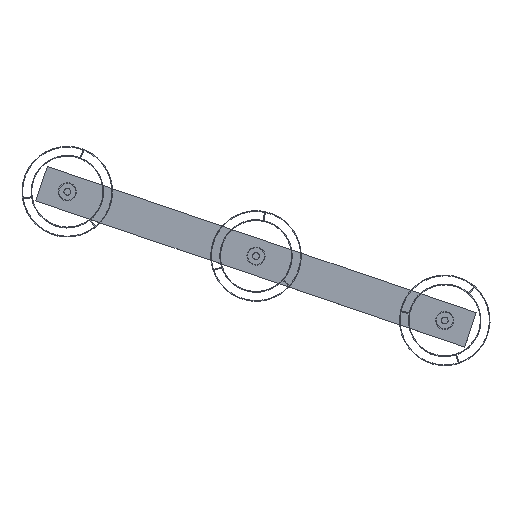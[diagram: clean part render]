
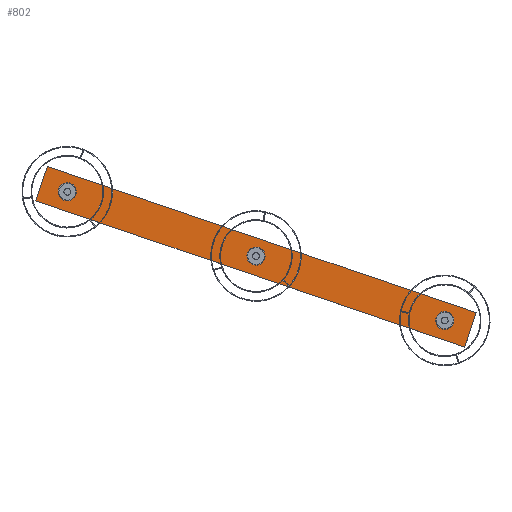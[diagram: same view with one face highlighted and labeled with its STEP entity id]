
A CAD part, top view. The second image highlights one B-rep face of the part: STEP entity #802.
In plain terms, the highlighted planar face has unit normal (0, 0, 1).
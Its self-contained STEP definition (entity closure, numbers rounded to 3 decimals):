
#57=LINE('',#1269,#117);
#60=LINE('',#1275,#120);
#63=LINE('',#1281,#123);
#66=LINE('',#1285,#126);
#117=VECTOR('',#1026,10.);
#120=VECTOR('',#1031,10.);
#123=VECTOR('',#1036,10.);
#126=VECTOR('',#1041,10.);
#183=PLANE('',#919);
#219=FACE_BOUND('',#312,.T.);
#220=FACE_BOUND('',#313,.T.);
#221=FACE_BOUND('',#314,.T.);
#255=FACE_OUTER_BOUND('',#311,.T.);
#311=EDGE_LOOP('',(#589,#590,#591,#592));
#312=EDGE_LOOP('',(#593));
#313=EDGE_LOOP('',(#594));
#314=EDGE_LOOP('',(#595));
#379=CIRCLE('',#904,10.);
#381=CIRCLE('',#908,10.);
#383=CIRCLE('',#912,10.);
#403=VERTEX_POINT('',#1247);
#405=VERTEX_POINT('',#1253);
#407=VERTEX_POINT('',#1259);
#410=VERTEX_POINT('',#1266);
#411=VERTEX_POINT('',#1268);
#413=VERTEX_POINT('',#1274);
#415=VERTEX_POINT('',#1280);
#471=EDGE_CURVE('',#403,#403,#379,.T.);
#473=EDGE_CURVE('',#405,#405,#381,.T.);
#475=EDGE_CURVE('',#407,#407,#383,.T.);
#478=EDGE_CURVE('',#411,#410,#57,.T.);
#481=EDGE_CURVE('',#413,#411,#60,.T.);
#484=EDGE_CURVE('',#415,#413,#63,.T.);
#487=EDGE_CURVE('',#410,#415,#66,.T.);
#589=ORIENTED_EDGE('',*,*,#487,.T.);
#590=ORIENTED_EDGE('',*,*,#484,.T.);
#591=ORIENTED_EDGE('',*,*,#481,.T.);
#592=ORIENTED_EDGE('',*,*,#478,.T.);
#593=ORIENTED_EDGE('',*,*,#471,.T.);
#594=ORIENTED_EDGE('',*,*,#473,.T.);
#595=ORIENTED_EDGE('',*,*,#475,.T.);
#802=ADVANCED_FACE('',(#255,#219,#220,#221),#183,.T.);
#904=AXIS2_PLACEMENT_3D('',#1248,#1002,#1003);
#908=AXIS2_PLACEMENT_3D('',#1254,#1010,#1011);
#912=AXIS2_PLACEMENT_3D('',#1260,#1018,#1019);
#919=AXIS2_PLACEMENT_3D('',#1287,#1044,#1045);
#1002=DIRECTION('center_axis',(0.,0.,-1.));
#1003=DIRECTION('ref_axis',(-1.,0.,0.));
#1010=DIRECTION('center_axis',(0.,0.,-1.));
#1011=DIRECTION('ref_axis',(-1.,0.,0.));
#1018=DIRECTION('center_axis',(0.,0.,-1.));
#1019=DIRECTION('ref_axis',(-1.,0.,0.));
#1026=DIRECTION('',(0.,1.,0.));
#1031=DIRECTION('',(1.,0.,0.));
#1036=DIRECTION('',(0.,-1.,0.));
#1041=DIRECTION('',(-1.,0.,0.));
#1044=DIRECTION('center_axis',(0.,0.,1.));
#1045=DIRECTION('ref_axis',(1.,0.,0.));
#1247=CARTESIAN_POINT('',(-430.,0.,20.));
#1248=CARTESIAN_POINT('Origin',(-440.,0.,20.));
#1253=CARTESIAN_POINT('',(10.,0.,20.));
#1254=CARTESIAN_POINT('Origin',(0.,0.,20.));
#1259=CARTESIAN_POINT('',(450.,0.,20.));
#1260=CARTESIAN_POINT('Origin',(440.,0.,20.));
#1266=CARTESIAN_POINT('',(500.,40.,20.));
#1268=CARTESIAN_POINT('',(500.,-40.,20.));
#1269=CARTESIAN_POINT('',(500.,40.,20.));
#1274=CARTESIAN_POINT('',(-500.,-40.,20.));
#1275=CARTESIAN_POINT('',(500.,-40.,20.));
#1280=CARTESIAN_POINT('',(-500.,40.,20.));
#1281=CARTESIAN_POINT('',(-500.,-40.,20.));
#1285=CARTESIAN_POINT('',(-500.,40.,20.));
#1287=CARTESIAN_POINT('Origin',(0.,0.,
20.));
